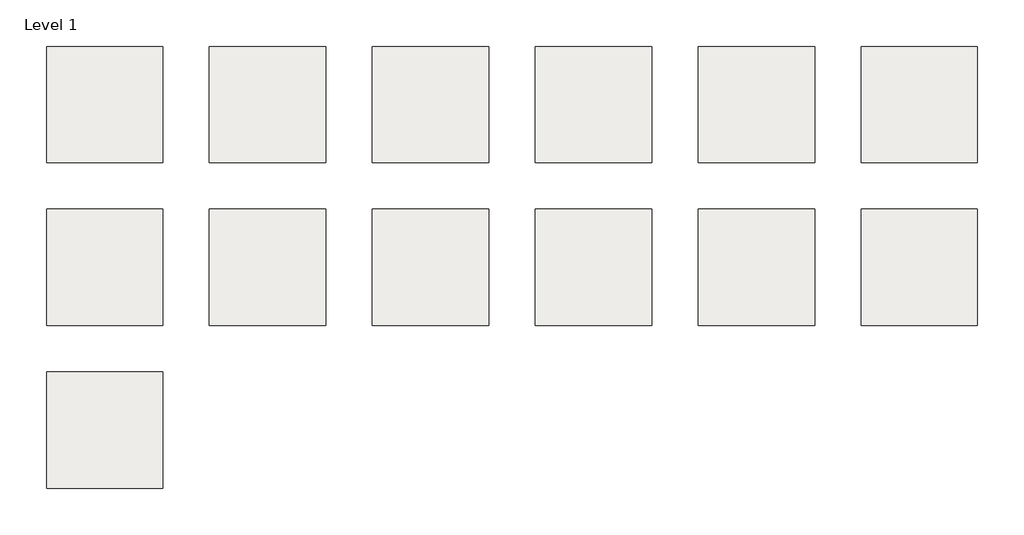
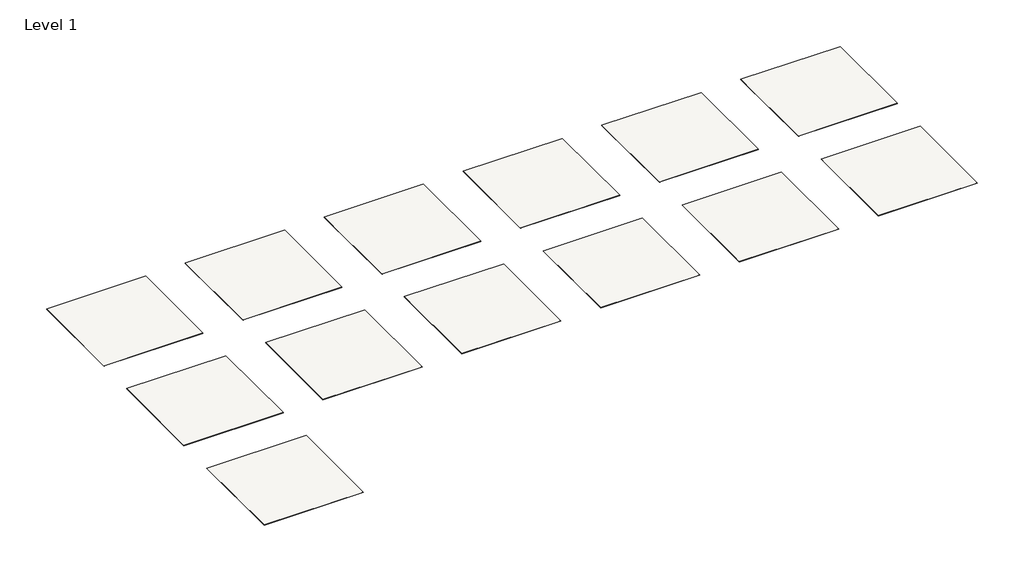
# One storey: 13 slabs.
"""IFC4 building model written with IfcOpenShell, lengths in millimetres."""

from ifc_helpers import new_model, si_unit, frame, origin, place, context, project, spatial, polyline, outline, extrude, element, save

model = new_model("IFC4")

# Units and contexts
model_context = context("Model", 3, world=origin())
ifc_project = project(units=[si_unit("LENGTHUNIT", "METRE", prefix="MILLI")], contexts=[model_context])

# Site, building, storey
site = spatial("IfcSite", under=ifc_project)
building = spatial("IfcBuilding", under=site)
storey = spatial("IfcBuildingStorey", under=building, Name="Level 1", Elevation=0.0)

# Slabs
placement = place(None, origin())
element("IfcSlab", 1, ObjectType="Armstrong Flooring_Heterogeneous Sheet_80860_Pyre", at=placement, inside=storey, context=model_context, shape_type="SweptSolid", body=[
    extrude(outline(polyline([(1219.2, 6400.8), (1219.2, 4876.8), (-304.8, 4876.8), (-304.8, 6400.8), (1219.2, 6400.8)])), frame((0.0, 0.0, -3.175), z_axis=(0.0, 0.0, 1.0), x_axis=(1.0, 0.0, 0.0)), (0.0, 0.0, 1.0), 3.175),
])
element("IfcSlab", 2, ObjectType="Armstrong Flooring_Heterogeneous Sheet_80861_Zephyr", at=placement, inside=storey, context=model_context, shape_type="SweptSolid", body=[
    extrude(outline(polyline([(3352.8, 6400.8), (3352.8, 4876.8), (1828.8, 4876.8), (1828.8, 6400.8), (3352.8, 6400.8)])), frame((0.0, 0.0, -3.175), z_axis=(0.0, 0.0, 1.0), x_axis=(1.0, 0.0, 0.0)), (0.0, 0.0, 1.0), 3.175),
])
element("IfcSlab", 3, ObjectType="Armstrong Flooring_Heterogeneous Sheet_80862_Terrain", at=placement, inside=storey, context=model_context, shape_type="SweptSolid", body=[
    extrude(outline(polyline([(5486.4, 6400.8), (5486.4, 4876.8), (3962.4, 4876.8), (3962.4, 6400.8), (5486.4, 6400.8)])), frame((0.0, 0.0, -3.175), z_axis=(0.0, 0.0, 1.0), x_axis=(1.0, 0.0, 0.0)), (0.0, 0.0, 1.0), 3.175),
])
element("IfcSlab", 4, ObjectType="Armstrong Flooring_Heterogeneous Sheet_80863_Splash", at=placement, inside=storey, context=model_context, shape_type="SweptSolid", body=[
    extrude(outline(polyline([(7620.0, 6400.8), (7620.0, 4876.8), (6096.0, 4876.8), (6096.0, 6400.8), (7620.0, 6400.8)])), frame((0.0, 0.0, -3.175), z_axis=(0.0, 0.0, 1.0), x_axis=(1.0, 0.0, 0.0)), (0.0, 0.0, 1.0), 3.175),
])
element("IfcSlab", 5, ObjectType="Armstrong Flooring_Heterogeneous Sheet_80870_Palo Santo", at=placement, inside=storey, context=model_context, shape_type="SweptSolid", body=[
    extrude(outline(polyline([(9753.6, 6400.8), (9753.6, 4876.8), (8229.6, 4876.8), (8229.6, 6400.8), (9753.6, 6400.8)])), frame((0.0, 0.0, -3.175), z_axis=(0.0, 0.0, 1.0), x_axis=(1.0, 0.0, 0.0)), (0.0, 0.0, 1.0), 3.175),
])
element("IfcSlab", 6, ObjectType="Armstrong Flooring_Heterogeneous Sheet_80871_Arrowroot", at=placement, inside=storey, context=model_context, shape_type="SweptSolid", body=[
    extrude(outline(polyline([(11887.2, 6400.8), (11887.2, 4876.8), (10363.2, 4876.8), (10363.2, 6400.8), (11887.2, 6400.8)])), frame((0.0, 0.0, -3.175), z_axis=(0.0, 0.0, 1.0), x_axis=(1.0, 0.0, 0.0)), (0.0, 0.0, 1.0), 3.175),
])
element("IfcSlab", 7, ObjectType="Armstrong Flooring_Heterogeneous Sheet_80872_Vetiver", at=placement, inside=storey, context=model_context, shape_type="SweptSolid", body=[
    extrude(outline(polyline([(1219.2, 4267.2), (1219.2, 2743.2), (-304.8, 2743.2), (-304.8, 4267.2), (1219.2, 4267.2)])), frame((0.0, 0.0, -3.175), z_axis=(0.0, 0.0, 1.0), x_axis=(1.0, 0.0, 0.0)), (0.0, 0.0, 1.0), 3.175),
])
element("IfcSlab", 8, ObjectType="Armstrong Flooring_Heterogeneous Sheet_80873_Cedar", at=placement, inside=storey, context=model_context, shape_type="SweptSolid", body=[
    extrude(outline(polyline([(3352.8, 4267.2), (3352.8, 2743.2), (1828.8, 2743.2), (1828.8, 4267.2), (3352.8, 4267.2)])), frame((0.0, 0.0, -3.175), z_axis=(0.0, 0.0, 1.0), x_axis=(1.0, 0.0, 0.0)), (0.0, 0.0, 1.0), 3.175),
])
element("IfcSlab", 9, ObjectType="Armstrong Flooring_Heterogeneous Sheet_80874_Lavender", at=placement, inside=storey, context=model_context, shape_type="SweptSolid", body=[
    extrude(outline(polyline([(5486.4, 4267.2), (5486.4, 2743.2), (3962.4, 2743.2), (3962.4, 4267.2), (5486.4, 4267.2)])), frame((0.0, 0.0, -3.175), z_axis=(0.0, 0.0, 1.0), x_axis=(1.0, 0.0, 0.0)), (0.0, 0.0, 1.0), 3.175),
])
element("IfcSlab", 10, ObjectType="Armstrong Flooring_Heterogeneous Sheet_80875_Ylang", at=placement, inside=storey, context=model_context, shape_type="SweptSolid", body=[
    extrude(outline(polyline([(7620.0, 4267.2), (7620.0, 2743.2), (6096.0, 2743.2), (6096.0, 4267.2), (7620.0, 4267.2)])), frame((0.0, 0.0, -3.175), z_axis=(0.0, 0.0, 1.0), x_axis=(1.0, 0.0, 0.0)), (0.0, 0.0, 1.0), 3.175),
])
element("IfcSlab", 11, ObjectType="Armstrong Flooring_Heterogeneous Sheet_80876_Patchouli", at=placement, inside=storey, context=model_context, shape_type="SweptSolid", body=[
    extrude(outline(polyline([(9753.6, 4267.2), (9753.6, 2743.2), (8229.6, 2743.2), (8229.6, 4267.2), (9753.6, 4267.2)])), frame((0.0, 0.0, -3.175), z_axis=(0.0, 0.0, 1.0), x_axis=(1.0, 0.0, 0.0)), (0.0, 0.0, 1.0), 3.175),
])
element("IfcSlab", 12, ObjectType="Armstrong Flooring_Heterogeneous Sheet_80877_Sandal", at=placement, inside=storey, context=model_context, shape_type="SweptSolid", body=[
    extrude(outline(polyline([(11887.2, 4267.2), (11887.2, 2743.2), (10363.2, 2743.2), (10363.2, 4267.2), (11887.2, 4267.2)])), frame((0.0, 0.0, -3.175), z_axis=(0.0, 0.0, 1.0), x_axis=(1.0, 0.0, 0.0)), (0.0, 0.0, 1.0), 3.175),
])
element("IfcSlab", 13, ObjectType="Armstrong Flooring_Heterogeneous Sheet_80878_Melissa", at=placement, inside=storey, context=model_context, shape_type="SweptSolid", body=[
    extrude(outline(polyline([(1219.2, 2133.6), (1219.2, 609.6), (-304.8, 609.6), (-304.8, 2133.6), (1219.2, 2133.6)])), frame((0.0, 0.0, -3.175), z_axis=(0.0, 0.0, 1.0), x_axis=(1.0, 0.0, 0.0)), (0.0, 0.0, 1.0), 3.175),
])

save(model, "model.ifc")
